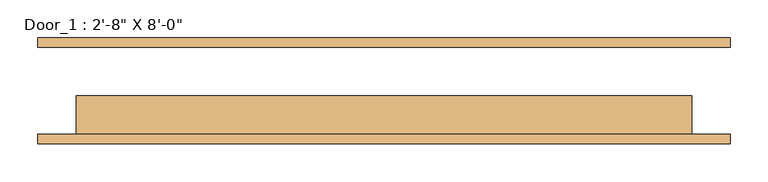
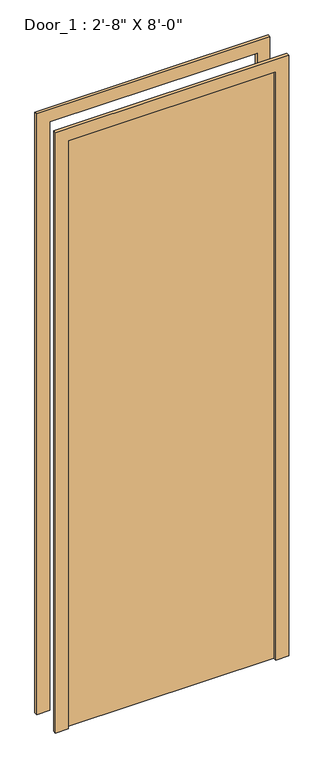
"""IFC4 building model written with IfcOpenShell, lengths in millimetres: door geometry."""

from ifc_helpers import new_model, si_unit, frame, origin, origin_with_axes, place, context, project, spatial, polyline, outline, extrude, source, transform, mapped, element, save


def door_c59346e6(model_context):
    return source(origin(), model_context, "Body", "SweptSolid", [
        extrude(outline(polyline([(2489.2, -457.2), (0.0, -457.2), (0.0, -406.4), (2438.4, -406.4), (2438.4, 406.4), (0.0, 406.4), (0.0, 457.2), (2489.2, 457.2), (2489.2, -457.2)])), frame((0.0, -69.85, 0.0), z_axis=(0.0, 1.0, 0.0), x_axis=(0.0, 0.0, 1.0)), (0.0, 0.0, 1.0), 12.7),
        extrude(outline(polyline([(2489.2, 457.2), (2489.2, -457.2), (0.0, -457.2), (0.0, -406.4), (2438.4, -406.4), (2438.4, 406.4), (0.0, 406.4), (0.0, 457.2), (2489.2, 457.2)])), frame((0.0, 57.15, 0.0), z_axis=(0.0, 1.0, 0.0), x_axis=(0.0, 0.0, 1.0)), (0.0, 0.0, 1.0), 12.7),
        extrude(outline(polyline([(406.4, -6.35), (406.4, -57.15), (-406.4, -57.15), (-406.4, -6.35), (406.4, -6.35)])), origin_with_axes(), (0.0, 0.0, 1.0), 2438.4),
    ])


if __name__ == "__main__":
    model = new_model("IFC4")
    model_context = context("Model", 3, world=origin())
    ifc_project = project(units=[si_unit("LENGTHUNIT", "METRE", prefix="MILLI")], contexts=[model_context])
    site = spatial("IfcSite", under=ifc_project)
    building = spatial("IfcBuilding", under=site)
    placement = place(None, origin())
    door_shape = door_c59346e6(model_context)
    element("IfcDoor", 1, ObjectType="Door_1 : 2'-8\" X 8'-0\"", at=placement, inside=building, context=model_context, shape_type="MappedRepresentation", body=[
        mapped(door_shape, transform((0.0, 0.0, 0.0), x_axis=(1.0, 0.0, 0.0), y_axis=(0.0, 1.0, 0.0), z_axis=(0.0, 0.0, 1.0))),
    ])
    save(model, "model.ifc")
